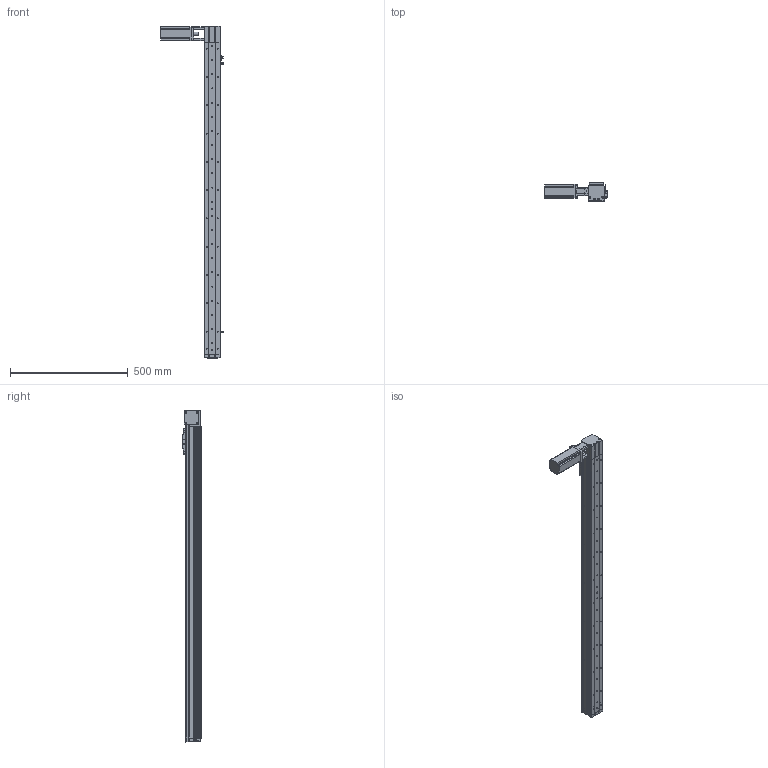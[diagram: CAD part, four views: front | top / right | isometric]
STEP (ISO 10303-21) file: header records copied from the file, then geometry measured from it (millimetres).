
FILE_DESCRIPTION (( 'STEP AP214' ), '1' );
FILE_NAME ('KSD68BS-S1150-MLT-CR.STEP', '2019-11-08T05:26:31', ( '微软用户' ), ( '微软中国' ), 'SwSTEP 2.0', 'SolidWorks 2014', '' );
FILE_SCHEMA (( 'AUTOMOTIVE_DESIGN' ));
Length unit declared in the file: millimetre
Products named in the file (13): KSD68BS 1150行程盖板全封闭; 68遵裔啣揤啣1; 68宽单导轨全封闭丝杆传动安装板1防护罩; KSD68BS 1150行程侧板全封闭; 68宽单导轨全封闭同步带端板; 68单导轨全封闭同步带电机座右; 68单导轨全封闭同步带安装板; 感应片68宽全封闭; U倰嫖萇EEㄜSX672; 台达ECMA－C20604AS伺服电机（400W); KSD68BS 1150行程底板全封闭; KSD68BS-S1150-MLT-CR; 100遵鎮湛假蚾啣1
Assembly tree (16 placements, depth 2):
  KSD68BS-S1150-MLT-CR
    KSD68BS 1150行程底板全封闭
    台达ECMA－C20604AS伺服电机（400W)
    U倰嫖萇EEㄜSX672  x3
    感应片68宽全封闭
    68单导轨全封闭同步带安装板
    68单导轨全封闭同步带电机座右
    68宽单导轨全封闭同步带端板
    KSD68BS 1150行程侧板全封闭  x2
    68宽单导轨全封闭丝杆传动安装板1防护罩
    68遵裔啣揤啣1  x2
    KSD68BS 1150行程盖板全封闭
    100遵鎮湛假蚾啣1
Bounding box: 266.4 x 77 x 1408.1 mm (x, y, z)
Volume: 2687384.9 mm3; surface area: 1029655.2 mm2
Topology: 17 solids, 17 shells, 1498 faces, 4290 edges, 2733 vertices
Faces by surface type: cylinder 718, plane 604, cone 176
Entity records: 48069 total; most frequent: CARTESIAN_POINT 8257, DIRECTION 7118, ORIENTED_EDGE 6808, EDGE_CURVE 3404, AXIS2_PLACEMENT_3D 2584, VERTEX_POINT 2231, LINE 1950, VECTOR 1950
